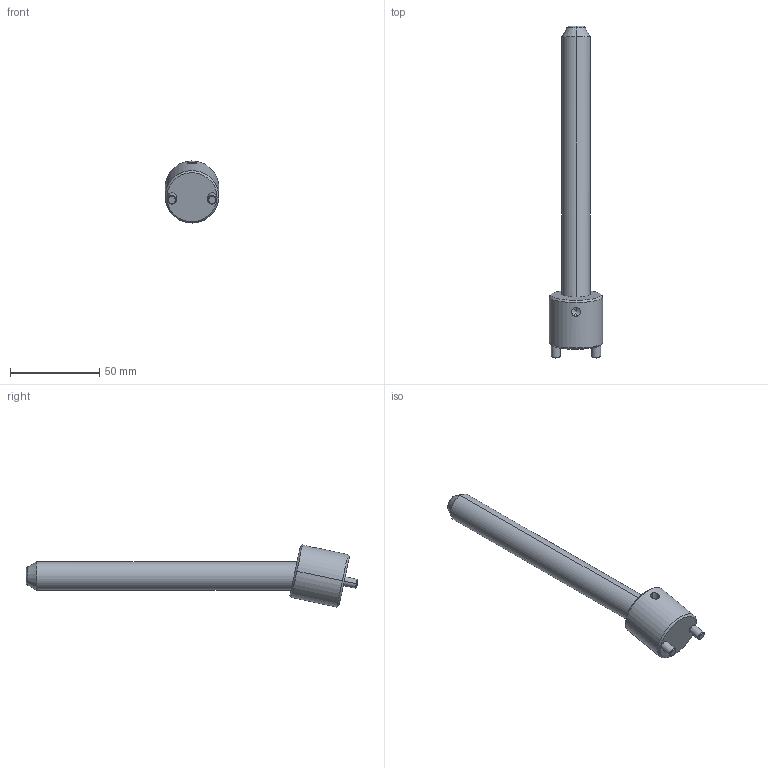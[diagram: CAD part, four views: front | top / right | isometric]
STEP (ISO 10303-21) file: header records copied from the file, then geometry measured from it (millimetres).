
FILE_DESCRIPTION(('CATIA V5 STEP Exchange'),'2;1');
FILE_NAME('C:\Users\Raffaele\Desktop\3D BOLEX\3D FILES CF BOLEX\19-INCLINED ASSEMBLY REF_CI\CI1216150.stp','2019-06-21T14:04:53+00:00',('none'),('none'),'CATIA Version 5 Release 20 GA (IN-10)','CATIA V5 STEP AP203','none');
FILE_SCHEMA(('CONFIG_CONTROL_DESIGN'));
Length unit declared in the file: millimetre
Products named in the file (1): CI1216150
Assembly tree (2 placements, depth 2):
  CI1216150
    #58
    #587
Bounding box: 30 x 185.76 x 34.75 mm (x, y, z)
Volume: 49402.9 mm3; surface area: 14483.6 mm2
Topology: 2 solids, 2 shells, 39 faces, 82 edges, 47 vertices
Faces by surface type: cone 14, cylinder 14, plane 7, torus 4
Entity records: 1467 total; most frequent: CARTESIAN_POINT 606, ORIENTED_EDGE 160, DIRECTION 146, EDGE_CURVE 80, AXIS2_PLACEMENT_3D 73, VERTEX_POINT 47, EDGE_LOOP 43, ADVANCED_FACE 39
